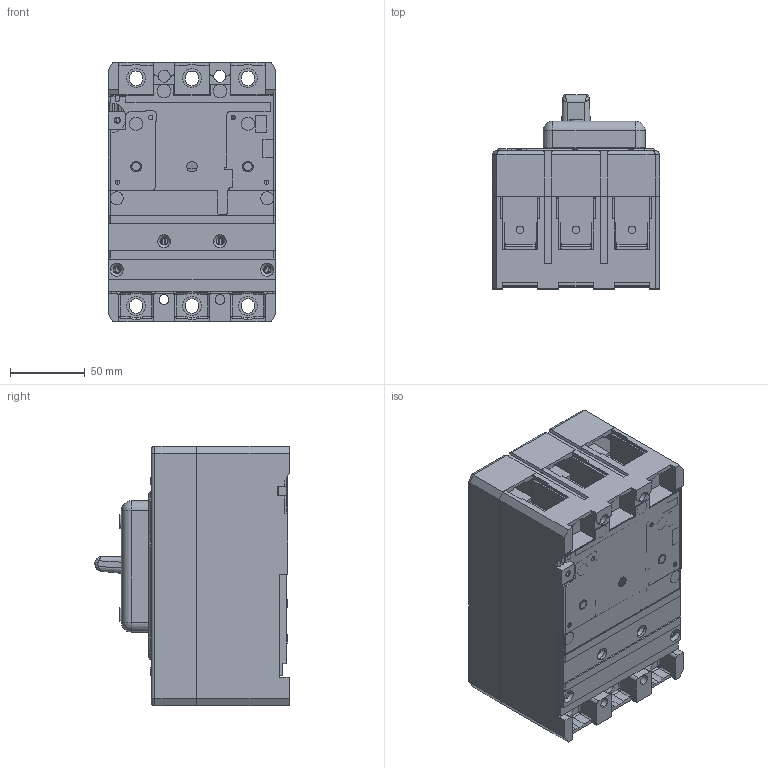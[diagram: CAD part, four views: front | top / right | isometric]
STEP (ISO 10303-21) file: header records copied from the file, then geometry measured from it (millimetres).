
FILE_DESCRIPTION (( 'STEP AP203' ), '1' );
FILE_NAME ('臍57-35.STEP', '2014-06-19T07:43:13', ( 'admin' ), ( 'Microsoft' ), 'SwSTEP 2.0', 'SolidWorks 2007', '' );
FILE_SCHEMA (( 'CONFIG_CONTROL_DESIGN' ));
Length unit declared in the file: millimetre
Products named in the file (1): 臍57-35
Bounding box: 112.23 x 130.49 x 174.49 mm (x, y, z)
Surface area: 187386.6 mm2 (no closed solid volume)
Topology: 0 solids, 13 shells, 874 faces, 3473 edges, 2532 vertices
Faces by surface type: plane 472, cylinder 262, bspline 65, cone 30, torus 25, sphere 20
Entity records: 39888 total; most frequent: CARTESIAN_POINT 11607, DIRECTION 5633, ORIENTED_EDGE 5429, EDGE_CURVE 3449, VERTEX_POINT 2532, LINE 2435, VECTOR 2435, AXIS2_PLACEMENT_3D 1599
